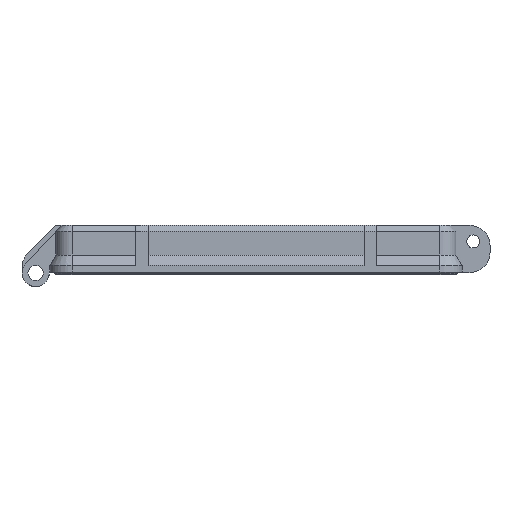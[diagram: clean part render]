
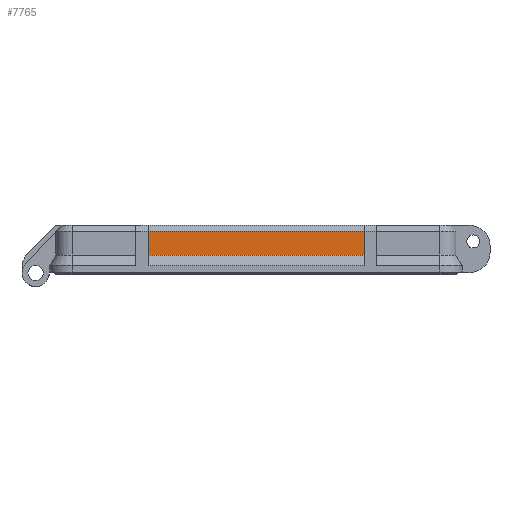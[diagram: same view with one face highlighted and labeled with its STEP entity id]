
A CAD part, left-side view. The second image highlights one B-rep face of the part: STEP entity #7765.
In plain terms, the highlighted planar face has unit normal (-1, 0, 0).
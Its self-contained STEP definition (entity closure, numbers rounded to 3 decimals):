
#123 = DIRECTION ( 'NONE',  ( 0., 0., 1. ) ) ;
#233 = CARTESIAN_POINT ( 'NONE',  ( -109.5, 27., -5.902 ) ) ;
#446 = ORIENTED_EDGE ( 'NONE', *, *, #6862, .F. ) ;
#592 = CARTESIAN_POINT ( 'NONE',  ( -109.5, -27., 0. ) ) ;
#1054 = ORIENTED_EDGE ( 'NONE', *, *, #1684, .F. ) ;
#1316 = CARTESIAN_POINT ( 'NONE',  ( -109.5, 27., 0. ) ) ;
#1459 = LINE ( 'NONE', #17044, #6947 ) ;
#1684 = EDGE_CURVE ( 'NONE', #4591, #15342, #8214, .T. ) ;
#3659 = EDGE_CURVE ( 'NONE', #4591, #12469, #1459, .T. ) ;
#4560 = DIRECTION ( 'NONE',  ( 0., 1., 0. ) ) ;
#4591 = VERTEX_POINT ( 'NONE', #5024 ) ;
#4739 = CARTESIAN_POINT ( 'NONE',  ( -109.5, -45.95, -8.5 ) ) ;
#5024 = CARTESIAN_POINT ( 'NONE',  ( -109.5, -27., -5.902 ) ) ;
#5043 = ORIENTED_EDGE ( 'NONE', *, *, #17699, .F. ) ;
#6862 = EDGE_CURVE ( 'NONE', #15342, #17297, #7245, .T. ) ;
#6947 = VECTOR ( 'NONE', #10274, 1000. ) ;
#7245 = LINE ( 'NONE', #14660, #10008 ) ;
#7765 = ADVANCED_FACE ( 'NONE', ( #10654 ), #11969, .F. ) ;
#8214 = LINE ( 'NONE', #13761, #11890 ) ;
#9707 = AXIS2_PLACEMENT_3D ( 'NONE', #4739, #16207, #4560 ) ;
#9970 = ORIENTED_EDGE ( 'NONE', *, *, #3659, .T. ) ;
#10008 = VECTOR ( 'NONE', #123, 1000. ) ;
#10274 = DIRECTION ( 'NONE',  ( 0., 0., 1. ) ) ;
#10278 = LINE ( 'NONE', #14423, #10653 ) ;
#10653 = VECTOR ( 'NONE', #12918, 1000. ) ;
#10654 = FACE_OUTER_BOUND ( 'NONE', #17563, .T. ) ;
#11890 = VECTOR ( 'NONE', #15266, 1000. ) ;
#11969 = PLANE ( 'NONE',  #9707 ) ;
#12469 = VERTEX_POINT ( 'NONE', #592 ) ;
#12918 = DIRECTION ( 'NONE',  ( 0., -1., 0. ) ) ;
#13761 = CARTESIAN_POINT ( 'NONE',  ( -109.5, -45.95, -5.902 ) ) ;
#14423 = CARTESIAN_POINT ( 'NONE',  ( -109.5, 45.95, 0. ) ) ;
#14660 = CARTESIAN_POINT ( 'NONE',  ( -109.5, 27., -5.902 ) ) ;
#15266 = DIRECTION ( 'NONE',  ( 0., 1., 0. ) ) ;
#15342 = VERTEX_POINT ( 'NONE', #233 ) ;
#16207 = DIRECTION ( 'NONE',  ( 1., 0., 0. ) ) ;
#17044 = CARTESIAN_POINT ( 'NONE',  ( -109.5, -27., -5.902 ) ) ;
#17297 = VERTEX_POINT ( 'NONE', #1316 ) ;
#17563 = EDGE_LOOP ( 'NONE', ( #446, #1054, #9970, #5043 ) ) ;
#17699 = EDGE_CURVE ( 'NONE', #17297, #12469, #10278, .T. ) ;
